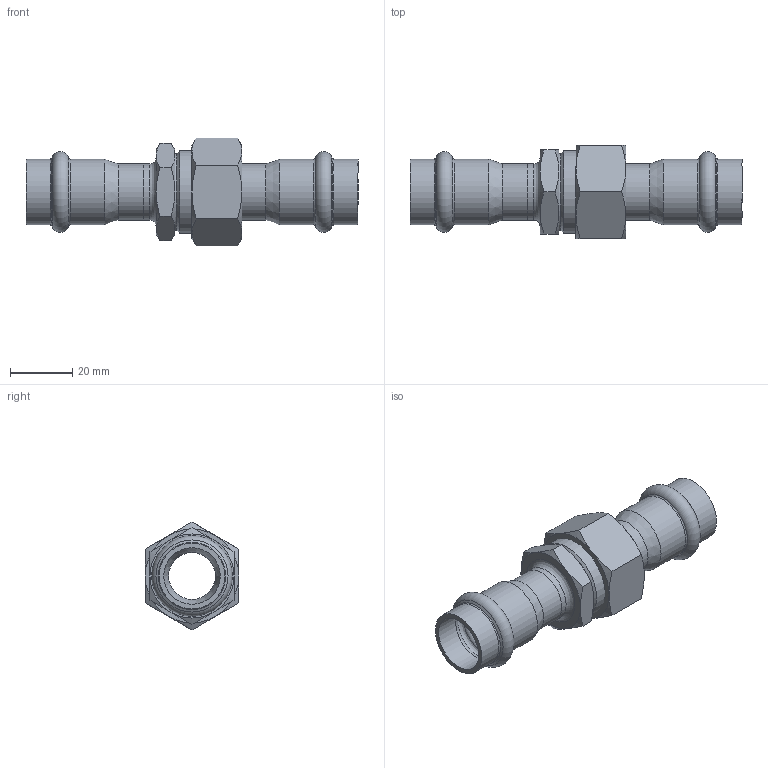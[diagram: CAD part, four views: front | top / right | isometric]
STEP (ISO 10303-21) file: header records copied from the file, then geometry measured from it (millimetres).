
FILE_DESCRIPTION((''),'2;1');
FILE_NAME('G:\Nirosan-Schmiedefeld\Technics\CAD\Bauteile VA\018\6933018(2).stp','2011-06-30T13:46:59',('herberg'),(''),'Autodesk Inventor 2009','Autodesk Inventor 2009','');
FILE_SCHEMA(('AUTOMOTIVE_DESIGN { 1 0 10303 214 1 1 1 1 }'));
Length unit declared in the file: millimetre
Products named in the file (9): 6933018(2); 69359AG1834(0); 6924318HM(1); 359AG1834(2); 69359m1834(3); HM_6924318(1); SM1834(2); R1834(0); FD_2417_EPDM(0)
Assembly tree (8 placements, depth 3):
  6933018(2)
    69359AG1834(0)
      6924318HM(1)
      359AG1834(2)
    69359m1834(3)
      HM_6924318(1)
      SM1834(2)
      R1834(0)
      FD_2417_EPDM(0)
Bounding box: 106.6 x 30 x 34.64 mm (x, y, z)
Volume: 20455.4 mm3; surface area: 19397.2 mm2
Topology: 6 solids, 6 shells, 103 faces, 202 edges, 115 vertices
Faces by surface type: cone 37, plane 27, cylinder 21, bspline 11, torus 7
Full cylindrical faces by diameter (mm): 15 x4, 17 x1, 18 x5, 18.15 x4, 21.15 x4, 23 x1, 24 x1, 26.441 x1
Entity records: 2982 total; most frequent: CARTESIAN_POINT 939, DIRECTION 408, ORIENTED_EDGE 298, AXIS2_PLACEMENT_3D 198, EDGE_LOOP 170, EDGE_CURVE 149, VERTEX_POINT 113, FACE_OUTER_BOUND 103
